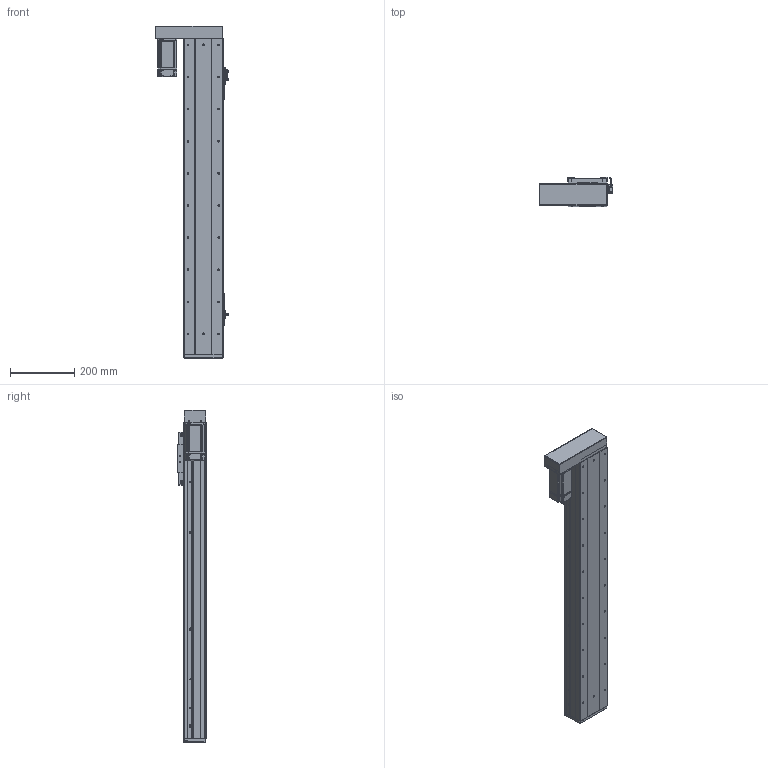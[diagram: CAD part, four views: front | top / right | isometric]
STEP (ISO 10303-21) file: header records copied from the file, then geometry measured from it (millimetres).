
FILE_DESCRIPTION (( 'STEP AP203' ), '1' );
FILE_NAME ('RY120F-L1620-300-LK.SLDASM_750.step', '2021-03-02T08:04:08', ( '盈信电脑' ), ( '东莞市道滘镇水果街19号' ), 'SwSTEP 2.0', 'SolidWorks 2012', '' );
FILE_SCHEMA (( 'CONFIG_CONTROL_DESIGN' ));
Length unit declared in the file: millimetre
Products named in the file (18): RY120F酘衵殏萇儂欶(200W); RY120F-L1620-300-LK.SLDASM_750; RY120F酘衵殏萇儂啣(200W PCD70 M4); 672嫖萇羲壽假蚾釱; FY120F詩湍揤踡輸; RY80俋离覜茼え; 15; 滅袉蝶18-24; RY120F-詩湍幗謫粣; RY120F綴裔啣(臏璃ㄘ; 覜茼ん672; RY120F转折电机端支撑座; RT120F-臏賑輸 16蹟譫; RY120F祥凄詩滅鳥裔; RT120F-臏賑輸奻釱; RT120F-300-倰第菁釱-LK_750; RT120F-300-倰第裔啣-LK_750; RY120F滅鳥詩湍-300-LK_750
Assembly tree (23 placements, depth 2):
  RY120F-L1620-300-LK.SLDASM_750
    RT120F-300-倰第菁釱-LK_750
    RT120F-300-倰第裔啣-LK_750  x2
    RY120F滅鳥詩湍-300-LK_750
    RT120F-臏賑輸 16蹟譫
    RT120F-臏賑輸奻釱
    RY120F转折电机端支撑座
    RY120F祥凄詩滅鳥裔
    滅袉蝶18-24  x2
    RY120F綴裔啣(臏璃ㄘ
    RY120F-詩湍幗謫粣
    覜茼ん672  x3
    672嫖萇羲壽假蚾釱  x2
    RY80俋离覜茼え
    FY120F詩湍揤踡輸  x2
    15
    RY120F酘衵殏萇儂啣(200W PCD70 M4)
    RY120F酘衵殏萇儂欶(200W)
Bounding box: 229.9 x 89 x 1034 mm (x, y, z)
Volume: 3621802.9 mm3; surface area: 1326515 mm2
Topology: 23 solids, 23 shells, 2123 faces, 5693 edges, 3617 vertices
Faces by surface type: cylinder 956, plane 896, cone 245, bspline 26
Entity records: 59583 total; most frequent: CARTESIAN_POINT 11028, DIRECTION 10061, ORIENTED_EDGE 9394, EDGE_CURVE 4697, AXIS2_PLACEMENT_3D 3646, VERTEX_POINT 3061, LINE 2769, VECTOR 2769
